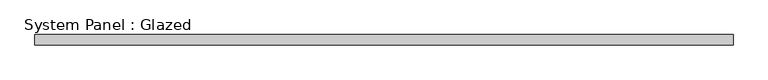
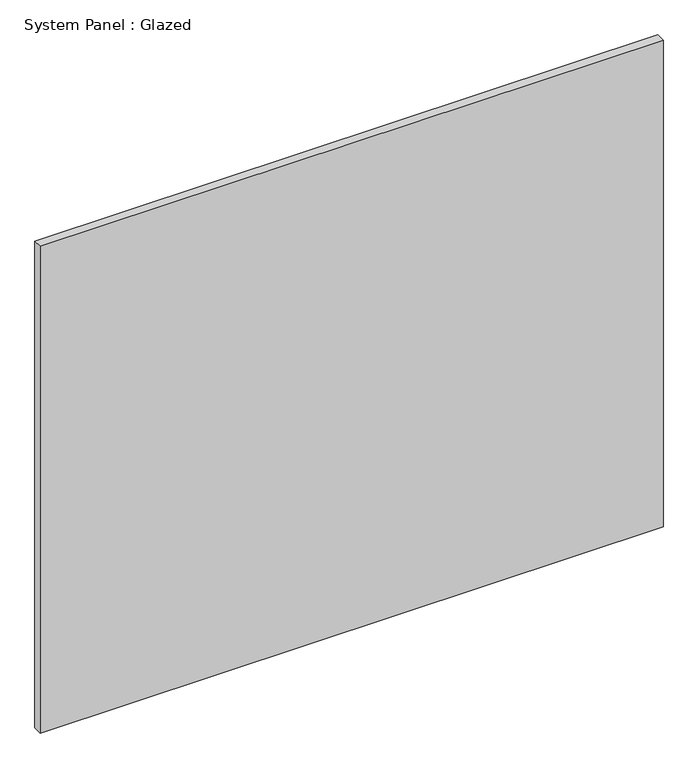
"""IFC4 building model written with IfcOpenShell, lengths in millimetres: plate geometry, System Panel : Glazed."""

from ifc_helpers import new_model, si_unit, origin, origin_with_axes, place, context, project, spatial, polyline, outline, extrude, source, transform, mapped, element, save


def system_panel_glazed_5259bb3b(model_context):
    return source(origin(), model_context, "Body", "SweptSolid", [
        extrude(outline(polyline([(862.5000002, -49.5), (-862.5000002, -49.5), (-862.5000002, -24.5), (862.5000002, -24.5), (862.5000002, -49.5)])), origin_with_axes(), (0.0, 0.0, 1.0), 1425.0),
    ])


if __name__ == "__main__":
    model = new_model("IFC4")
    model_context = context("Model", 3, world=origin())
    ifc_project = project(units=[si_unit("LENGTHUNIT", "METRE", prefix="MILLI")], contexts=[model_context])
    site = spatial("IfcSite", under=ifc_project)
    building = spatial("IfcBuilding", under=site)
    placement = place(None, origin())
    system_panel_glazed_shape = system_panel_glazed_5259bb3b(model_context)
    element("IfcPlate", 1, ObjectType="System Panel : Glazed", at=placement, inside=building, context=model_context, shape_type="MappedRepresentation", body=[
        mapped(system_panel_glazed_shape, transform((0.0, 0.0, 0.0), x_axis=(1.0, 0.0, 0.0), y_axis=(0.0, 1.0, 0.0), z_axis=(0.0, 0.0, 1.0))),
    ])
    save(model, "model.ifc")
